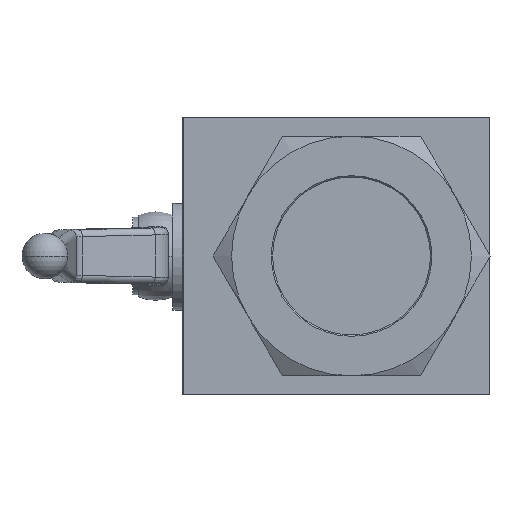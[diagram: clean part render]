
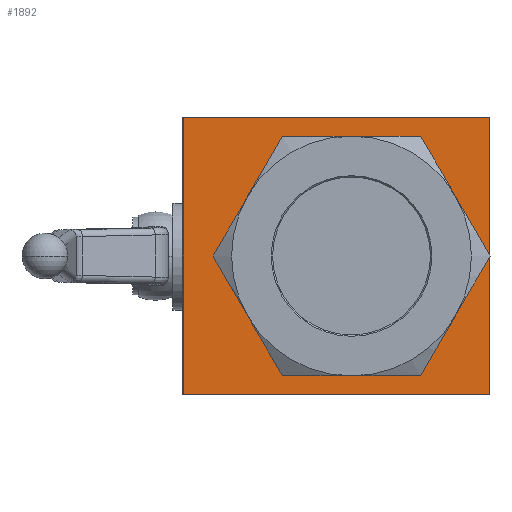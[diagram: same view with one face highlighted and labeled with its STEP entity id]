
A CAD part, left-side view. The second image highlights one B-rep face of the part: STEP entity #1892.
In plain terms, the highlighted planar face has unit normal (-1, 0, 0).
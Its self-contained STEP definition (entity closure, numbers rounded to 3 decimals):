
#7 = FACE_OUTER_BOUND ( 'NONE', #4282, .T. ) ;
#71 = CARTESIAN_POINT ( 'NONE',  ( -50., 55., 50. ) ) ;
#188 = CARTESIAN_POINT ( 'NONE',  ( -50., 55., -50. ) ) ;
#312 = CARTESIAN_POINT ( 'NONE',  ( -50., 55.5, 50. ) ) ;
#397 = EDGE_LOOP ( 'NONE', ( #4406, #6567 ) ) ;
#484 = VERTEX_POINT ( 'NONE', #3448 ) ;
#881 = CARTESIAN_POINT ( 'NONE',  ( -50., 55., 50. ) ) ;
#1245 = DIRECTION ( 'NONE',  ( 0., 1., 0. ) ) ;
#1250 = LINE ( 'NONE', #3367, #6190 ) ;
#1378 = ORIENTED_EDGE ( 'NONE', *, *, #6820, .T. ) ;
#1840 = CARTESIAN_POINT ( 'NONE',  ( -50., -5.5, 0. ) ) ;
#1881 = AXIS2_PLACEMENT_3D ( 'NONE', #312, #6828, #1245 ) ;
#1892 = ADVANCED_FACE ( 'NONE', ( #7, #7409 ), #8635, .F. ) ;
#1894 = VECTOR ( 'NONE', #10115, 1000. ) ;
#2103 = DIRECTION ( 'NONE',  ( -1., 0., 0. ) ) ;
#2549 = VERTEX_POINT ( 'NONE', #7179 ) ;
#2656 = EDGE_CURVE ( 'NONE', #7456, #2549, #6684, .T. ) ;
#2762 = DIRECTION ( 'NONE',  ( 0., 0., 1. ) ) ;
#2829 = VERTEX_POINT ( 'NONE', #188 ) ;
#2960 = DIRECTION ( 'NONE',  ( 0., -1., 0. ) ) ;
#2966 = CARTESIAN_POINT ( 'NONE',  ( -50., -55.5, -50. ) ) ;
#3355 = EDGE_CURVE ( 'NONE', #2829, #8991, #4748, .T. ) ;
#3367 = CARTESIAN_POINT ( 'NONE',  ( -50., -55.5, 50. ) ) ;
#3448 = CARTESIAN_POINT ( 'NONE',  ( -50., -5.5, 43.3 ) ) ;
#4282 = EDGE_LOOP ( 'NONE', ( #11611, #5123, #11782, #1378 ) ) ;
#4406 = ORIENTED_EDGE ( 'NONE', *, *, #11011, .F. ) ;
#4748 = LINE ( 'NONE', #5735, #6952 ) ;
#4797 = AXIS2_PLACEMENT_3D ( 'NONE', #7665, #2103, #8586 ) ;
#5123 = ORIENTED_EDGE ( 'NONE', *, *, #8098, .F. ) ;
#5325 = VERTEX_POINT ( 'NONE', #7942 ) ;
#5735 = CARTESIAN_POINT ( 'NONE',  ( -50., 55.5, -50. ) ) ;
#6190 = VECTOR ( 'NONE', #9834, 1000. ) ;
#6377 = VECTOR ( 'NONE', #2960, 1000. ) ;
#6567 = ORIENTED_EDGE ( 'NONE', *, *, #10630, .F. ) ;
#6684 = LINE ( 'NONE', #8511, #6377 ) ;
#6820 = EDGE_CURVE ( 'NONE', #7456, #2829, #11438, .T. ) ;
#6828 = DIRECTION ( 'NONE',  ( 1., 0., 0. ) ) ;
#6952 = VECTOR ( 'NONE', #8536, 1000. ) ;
#7179 = CARTESIAN_POINT ( 'NONE',  ( -50., -55.5, 50. ) ) ;
#7409 = FACE_BOUND ( 'NONE', #397, .T. ) ;
#7456 = VERTEX_POINT ( 'NONE', #71 ) ;
#7665 = CARTESIAN_POINT ( 'NONE',  ( -50., -5.5, 0. ) ) ;
#7942 = CARTESIAN_POINT ( 'NONE',  ( -50., -5.5, -43.3 ) ) ;
#7986 = AXIS2_PLACEMENT_3D ( 'NONE', #1840, #8316, #2762 ) ;
#8098 = EDGE_CURVE ( 'NONE', #2549, #8991, #1250, .T. ) ;
#8316 = DIRECTION ( 'NONE',  ( -1., 0., 0. ) ) ;
#8511 = CARTESIAN_POINT ( 'NONE',  ( -50., 55.5, 50. ) ) ;
#8536 = DIRECTION ( 'NONE',  ( 0., -1., 0. ) ) ;
#8586 = DIRECTION ( 'NONE',  ( 0., 0., 1. ) ) ;
#8610 = CIRCLE ( 'NONE', #7986, 43.3 ) ;
#8635 = PLANE ( 'NONE',  #1881 ) ;
#8991 = VERTEX_POINT ( 'NONE', #2966 ) ;
#9834 = DIRECTION ( 'NONE',  ( 0., 0., -1. ) ) ;
#10115 = DIRECTION ( 'NONE',  ( 0., 0., -1. ) ) ;
#10630 = EDGE_CURVE ( 'NONE', #5325, #484, #8610, .T. ) ;
#11011 = EDGE_CURVE ( 'NONE', #484, #5325, #11586, .T. ) ;
#11438 = LINE ( 'NONE', #881, #1894 ) ;
#11586 = CIRCLE ( 'NONE', #4797, 43.3 ) ;
#11611 = ORIENTED_EDGE ( 'NONE', *, *, #3355, .T. ) ;
#11782 = ORIENTED_EDGE ( 'NONE', *, *, #2656, .F. ) ;
